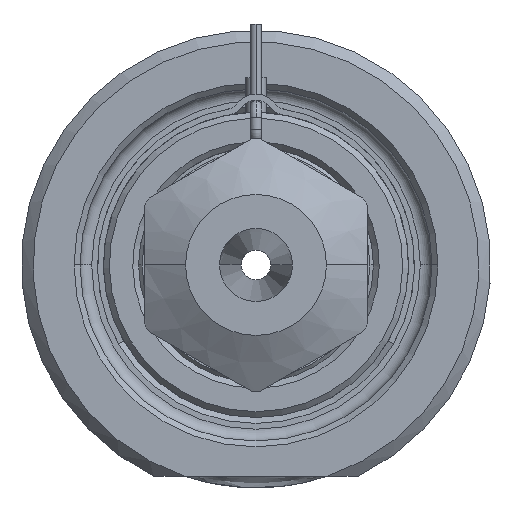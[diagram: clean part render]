
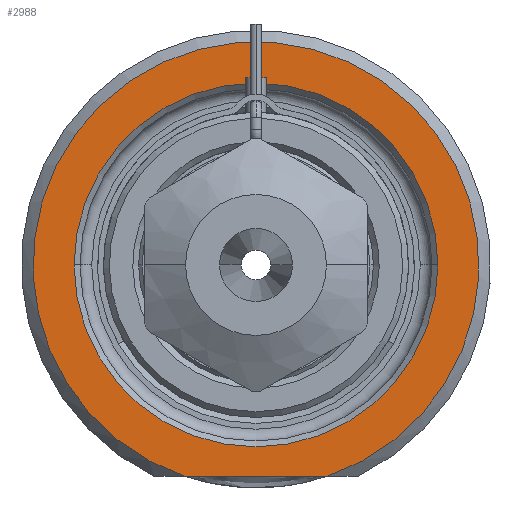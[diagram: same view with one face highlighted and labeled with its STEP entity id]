
A CAD part, front view. The second image highlights one B-rep face of the part: STEP entity #2988.
In plain terms, the highlighted planar face has unit normal (0, -1, 0).
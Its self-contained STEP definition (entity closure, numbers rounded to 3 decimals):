
#1=DIRECTION('',(1.,0.,0.));
#2=VECTOR('',#1,12.166);
#3=CARTESIAN_POINT('',(-6.083,0.,-18.));
#4=LINE('',#3,#2);
#5=CARTESIAN_POINT('',(0.,0.,0.));
#6=DIRECTION('',(0.,1.,0.));
#7=DIRECTION('',(-1.,0.,0.));
#8=AXIS2_PLACEMENT_3D('',#5,#6,#7);
#10=CARTESIAN_POINT('',(0.,0.,0.));
#11=DIRECTION('',(0.,1.,0.));
#12=DIRECTION('',(1.,0.,0.));
#13=AXIS2_PLACEMENT_3D('',#10,#11,#12);
#264=CARTESIAN_POINT('',(0.,0.,0.));
#265=DIRECTION('',(0.,-1.,0.));
#266=DIRECTION('',(0.32,0.,-0.947));
#267=AXIS2_PLACEMENT_3D('',#264,#265,#266);
#2518=CARTESIAN_POINT('',(-15.5,0.,0.));
#2519=CARTESIAN_POINT('',(15.5,0.,0.));
#2520=VERTEX_POINT('',#2518);
#2521=VERTEX_POINT('',#2519);
#2562=CARTESIAN_POINT('',(-6.083,0.,-18.));
#2563=CARTESIAN_POINT('',(6.083,0.,-18.));
#2564=VERTEX_POINT('',#2562);
#2565=VERTEX_POINT('',#2563);
#2971=CARTESIAN_POINT('',(0.,0.,0.));
#2972=DIRECTION('',(0.,-1.,0.));
#2973=DIRECTION('',(1.,0.,0.));
#2974=AXIS2_PLACEMENT_3D('',#2971,#2972,#2973);
#2975=PLANE('',#2974);
#2977=ORIENTED_EDGE('',*,*,#2976,.F.);
#2979=ORIENTED_EDGE('',*,*,#2978,.F.);
#2980=EDGE_LOOP('',(#2977,#2979));
#2981=FACE_OUTER_BOUND('',#2980,.F.);
#2983=ORIENTED_EDGE('',*,*,#2982,.F.);
#2985=ORIENTED_EDGE('',*,*,#2984,.F.);
#2986=EDGE_LOOP('',(#2983,#2985));
#2987=FACE_BOUND('',#2986,.F.);
#2988=ADVANCED_FACE('',(#2981,#2987),#2975,.T.);
#9=CIRCLE('',#8,15.5);
#14=CIRCLE('',#13,15.5);
#268=CIRCLE('',#267,19.);
#2976=EDGE_CURVE('',#2564,#2565,#4,.T.);
#2978=EDGE_CURVE('',#2565,#2564,#268,.T.);
#2982=EDGE_CURVE('',#2520,#2521,#9,.T.);
#2984=EDGE_CURVE('',#2521,#2520,#14,.T.);
